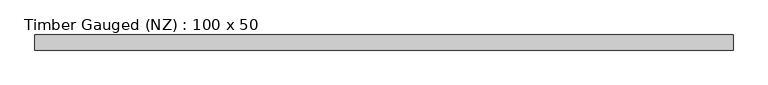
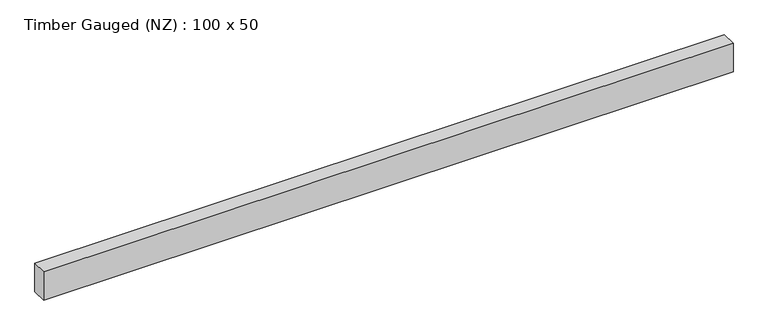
"""IFC4 building model written with IfcOpenShell, lengths in millimetres: beam geometry, Timber Gauged (NZ) : 100 x 50."""

from ifc_helpers import new_model, si_unit, frame, origin, place, context, project, spatial, polyline, outline, extrude, source, transform, mapped, element, save


def timber_gauged_nz_100_x_50_718b6390(model_context):
    return source(origin(), model_context, "Body", "SweptSolid", [
        extrude(outline(polyline([(1093.0, 23.5), (1093.0, -23.5), (-1077.0, -23.5), (-1077.0, 23.5), (1093.0, 23.5)])), frame((0.0, 0.0, -47.0), z_axis=(0.0, 0.0, 1.0), x_axis=(1.0, 0.0, 0.0)), (0.0, 0.0, 1.0), 94.0),
    ])


if __name__ == "__main__":
    model = new_model("IFC4")
    model_context = context("Model", 3, world=origin())
    ifc_project = project(units=[si_unit("LENGTHUNIT", "METRE", prefix="MILLI")], contexts=[model_context])
    site = spatial("IfcSite", under=ifc_project)
    building = spatial("IfcBuilding", under=site)
    placement = place(None, origin())
    timber_gauged_nz_100_x_50_shape = timber_gauged_nz_100_x_50_718b6390(model_context)
    element("IfcBeam", 1, ObjectType="Timber Gauged (NZ) : 100 x 50", at=placement, inside=building, context=model_context, shape_type="MappedRepresentation", body=[
        mapped(timber_gauged_nz_100_x_50_shape, transform((0.0, 0.0, 0.0), x_axis=(1.0, 0.0, 0.0), y_axis=(0.0, 1.0, 0.0), z_axis=(0.0, 0.0, 1.0))),
    ])
    save(model, "model.ifc")
